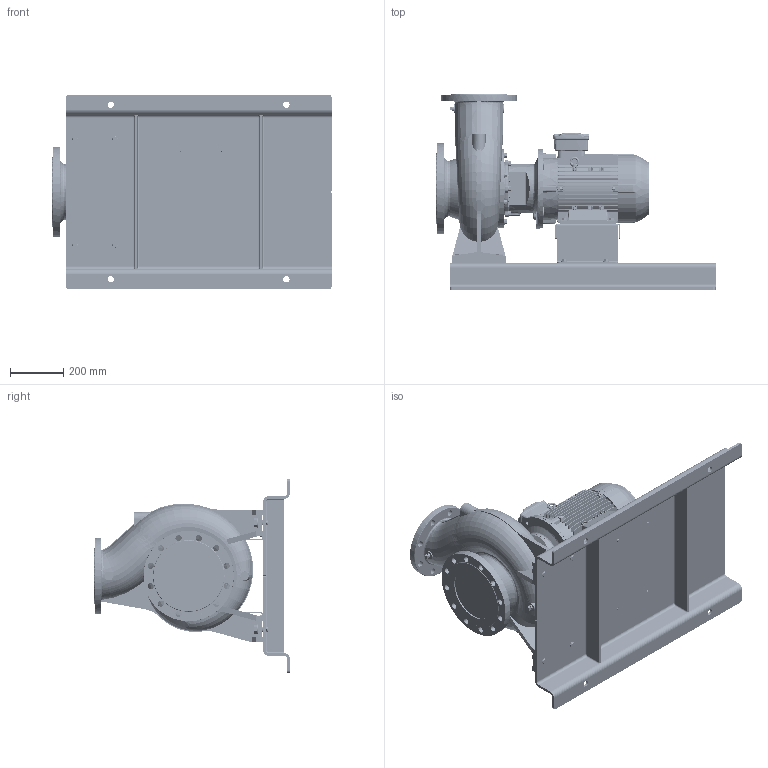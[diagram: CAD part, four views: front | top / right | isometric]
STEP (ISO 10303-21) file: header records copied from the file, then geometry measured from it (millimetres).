
FILE_DESCRIPTION (( 'STEP AP214' ), '1' );
FILE_NAME ('GSD4 150-200_7.5_(132M)_W21_BP.STEP', '2026-05-08T01:18:29', ( '' ), ( '' ), 'SwSTEP 2.0', 'SolidWorks 2024', '' );
FILE_SCHEMA (( 'AUTOMOTIVE_DESIGN' ));
Length unit declared in the file: millimetre
Products named in the file (13): Parametric Flat Washer_M10; 140_178 x 148 BP - CGSDA-5246; Parametric bolt and washer_SFT-A249B; GSD4 150-200_7.5_(132M)_W21_BP; Parametric bolt and washer_SFT-A403B; 150-200-132M_ﾃﾞﾌｫﾙﾄ; Parametric bolt_SFT-A253B; Parametric bolt_SFT-A249B; Parametric bolt and washer_SFT-A253B; Parametric bolt_SFT-A403B; N9S5 GSDA-951 F1-1832965-00; 132M ALIE3_W21T_B35; Parametric Flat Washer_M20
Assembly tree (22 placements, depth 3):
  GSD4 150-200_7.5_(132M)_W21_BP
    150-200-132M_ﾃﾞﾌｫﾙﾄ
    140_178 x 148 BP - CGSDA-5246
    Parametric bolt and washer_SFT-A403B  x4
      Parametric bolt_SFT-A403B
      Parametric Flat Washer_M20
    Parametric bolt and washer_SFT-A249B  x4
      Parametric bolt_SFT-A249B
      Parametric Flat Washer_M10
    Parametric bolt and washer_SFT-A253B  x4
      Parametric bolt_SFT-A253B
      Parametric Flat Washer_M10
    N9S5 GSDA-951 F1-1832965-00
    132M ALIE3_W21T_B35
Bounding box: 1050 x 735 x 730 mm (x, y, z)
Volume: 66272827.1 mm3; surface area: 4912185.5 mm2
Topology: 38 solids, 38 shells, 5307 faces, 13774 edges, 8871 vertices
Faces by surface type: plane 3003, cylinder 1395, torus 315, bspline 298, cone 264, sphere 32
Entity records: 204877 total; most frequent: CARTESIAN_POINT 90534, ORIENTED_EDGE 24704, DIRECTION 22117, EDGE_CURVE 12352, VECTOR 8033, LINE 8033, VERTEX_POINT 7962, AXIS2_PLACEMENT_3D 7042
